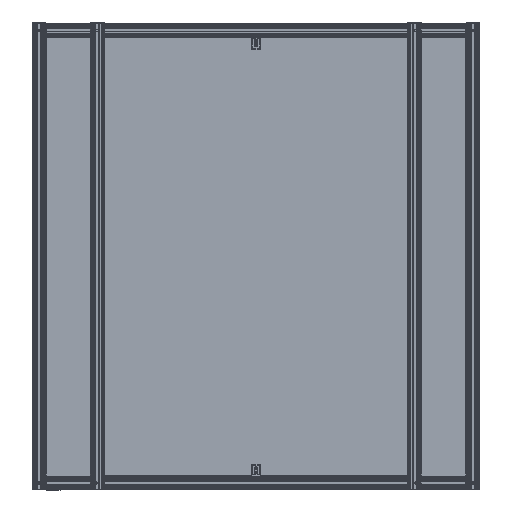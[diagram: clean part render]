
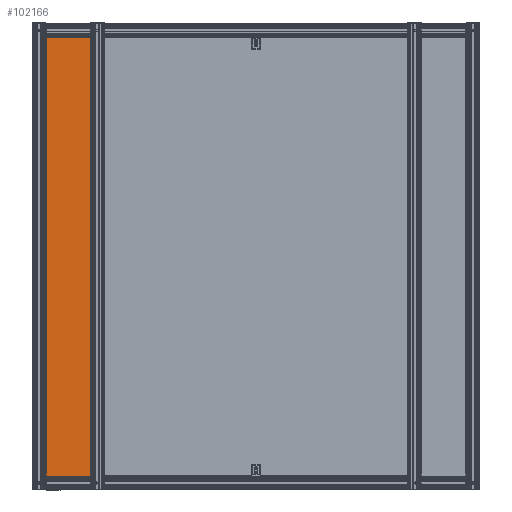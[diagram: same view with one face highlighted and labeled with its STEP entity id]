
A CAD part, front view. The second image highlights one B-rep face of the part: STEP entity #102166.
In plain terms, the highlighted planar face has unit normal (0, -1, 0).
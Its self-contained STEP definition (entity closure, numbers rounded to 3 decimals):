
#4787=PLANE('',#109904);
#10338=FACE_OUTER_BOUND('',#15865,.T.);
#15865=EDGE_LOOP('',(#95978,#95979,#95980,#95981));
#27592=LINE('',#169825,#39343);
#27596=LINE('',#169833,#39347);
#27599=LINE('',#169839,#39350);
#27602=LINE('',#169844,#39353);
#39343=VECTOR('',#136835,1000.);
#39347=VECTOR('',#136841,1000.);
#39350=VECTOR('',#136846,1000.);
#39353=VECTOR('',#136851,1000.);
#51341=VERTEX_POINT('',#169823);
#51342=VERTEX_POINT('',#169824);
#51345=VERTEX_POINT('',#169832);
#51347=VERTEX_POINT('',#169838);
#66232=EDGE_CURVE('',#51341,#51342,#27592,.T.);
#66236=EDGE_CURVE('',#51342,#51345,#27596,.T.);
#66239=EDGE_CURVE('',#51345,#51347,#27599,.T.);
#66242=EDGE_CURVE('',#51347,#51341,#27602,.T.);
#95978=ORIENTED_EDGE('',*,*,#66232,.F.);
#95979=ORIENTED_EDGE('',*,*,#66242,.F.);
#95980=ORIENTED_EDGE('',*,*,#66239,.F.);
#95981=ORIENTED_EDGE('',*,*,#66236,.F.);
#102166=ADVANCED_FACE('',(#10338),#4787,.F.);
#109904=AXIS2_PLACEMENT_3D('',#169846,#136853,#136854);
#136835=DIRECTION('',(1.,0.,0.));
#136841=DIRECTION('',(0.,0.,-1.));
#136846=DIRECTION('',(-1.,0.,0.));
#136851=DIRECTION('',(0.,0.,1.));
#136853=DIRECTION('center_axis',(0.,1.,0.));
#136854=DIRECTION('ref_axis',(0.,0.,
-1.));
#169823=CARTESIAN_POINT('',(-458.,-487.,978.));
#169824=CARTESIAN_POINT('',(-347.,-487.,978.));
#169825=CARTESIAN_POINT('',(-458.,-487.,978.));
#169832=CARTESIAN_POINT('',(-347.,-487.,22.));
#169833=CARTESIAN_POINT('',(-347.,-487.,978.));
#169838=CARTESIAN_POINT('',(-458.,-487.,22.));
#169839=CARTESIAN_POINT('',(-347.,-487.,22.));
#169844=CARTESIAN_POINT('',(-458.,-487.,22.));
#169846=CARTESIAN_POINT('Origin',(-347.,-487.,978.));
